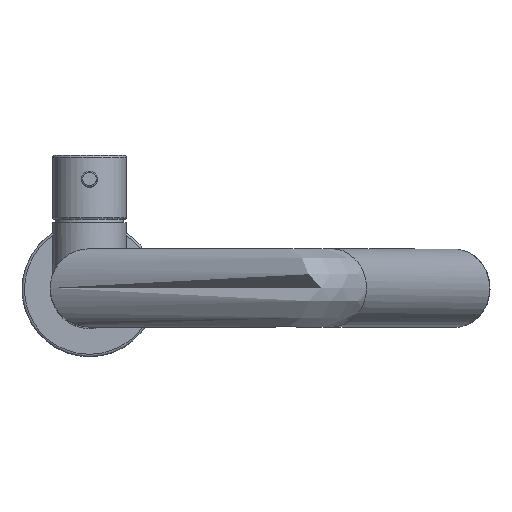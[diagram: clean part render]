
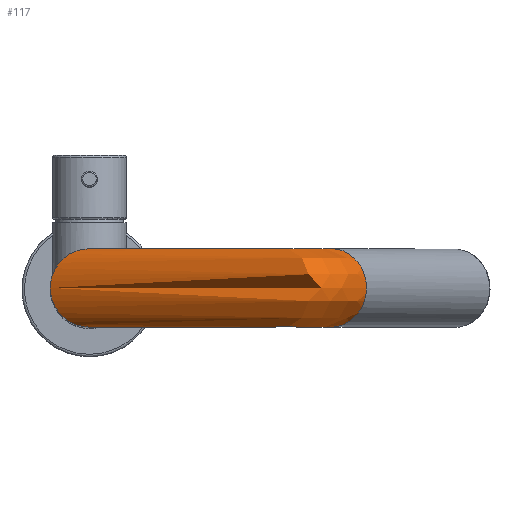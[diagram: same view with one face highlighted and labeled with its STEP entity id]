
A CAD part, top view. The second image highlights one B-rep face of the part: STEP entity #117.
In plain terms, the highlighted face is a revolution surface.
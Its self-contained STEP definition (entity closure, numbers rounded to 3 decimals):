
#117=ADVANCED_FACE('',(#422,#424),#426,.F.);
#422=FACE_OUTER_BOUND('',#423,.T.);
#423=EDGE_LOOP('',(#980));
#424=FACE_BOUND('',#425,.T.);
#425=EDGE_LOOP('',(#981,#982));
#426=SURFACE_OF_REVOLUTION('',#427,#428);
#427=(BOUNDED_CURVE()B_SPLINE_CURVE(3,
(#983,#984,#985,#986,#987,#988,#989),
.UNSPECIFIED.,.T.,.F.)B_SPLINE_CURVE_WITH_KNOTS((4,3,4),
(0.,0.5,1.),
.UNSPECIFIED.)CURVE()GEOMETRIC_REPRESENTATION_ITEM()RATIONAL_B_SPLINE_CURVE((1.,
0.333,0.333,1.,0.333,0.333,1.))
REPRESENTATION_ITEM(''));
#428=AXIS1_PLACEMENT('',#429,#430);
#429=CARTESIAN_POINT('',(51.685,0.,336.449));
#430=DIRECTION('',(0.,1.,0.));
#980=ORIENTED_EDGE('',*,*,#1059,.F.);
#981=ORIENTED_EDGE('',*,*,#1060,.T.);
#982=ORIENTED_EDGE('',*,*,#1061,.T.);
#983=CARTESIAN_POINT('',(16.,0.,336.449));
#984=CARTESIAN_POINT('',(16.,32.,336.449));
#985=CARTESIAN_POINT('',(-16.,32.,336.449));
#986=CARTESIAN_POINT('',(-16.,0.,336.449));
#987=CARTESIAN_POINT('',(-16.,-32.,336.449));
#988=CARTESIAN_POINT('',(16.,-32.,336.449));
#989=CARTESIAN_POINT('',(16.,0.,336.449));
#1059=EDGE_CURVE('',#1104,#1104,#1105,.T.);
#1060=EDGE_CURVE('',#1106,#1107,#1108,.T.);
#1061=EDGE_CURVE('',#1107,#1106,#1109,.T.);
#1104=VERTEX_POINT('',#1646);
#1105=CIRCLE('',#1647,16.);
#1106=VERTEX_POINT('',#1651);
#1107=VERTEX_POINT('',#1652);
#1108=CIRCLE('',#1653,16.);
#1109=CIRCLE('',#1657,16.);
#1646=CARTESIAN_POINT('',(84.026,0.,351.53));
#1647=AXIS2_PLACEMENT_3D('',#1648,#1649,#1650);
#1648=CARTESIAN_POINT('',(98.527,0.,358.292));
#1649=DIRECTION('',(0.423,0.,-0.906));
#1650=DIRECTION('',(-0.906,0.,-0.423));
#1651=CARTESIAN_POINT('',(16.,0.,336.449));
#1652=CARTESIAN_POINT('',(-16.,0.,336.449));
#1653=AXIS2_PLACEMENT_3D('',#1654,#1655,#1656);
#1654=CARTESIAN_POINT('',(0.,0.,336.449));
#1655=DIRECTION('',(0.,0.,1.));
#1656=DIRECTION('',(1.,0.,0.));
#1657=AXIS2_PLACEMENT_3D('',#1658,#1659,#1660);
#1658=CARTESIAN_POINT('',(0.,0.,336.449));
#1659=DIRECTION('',(0.,0.,1.));
#1660=DIRECTION('',(-1.,0.,0.));
